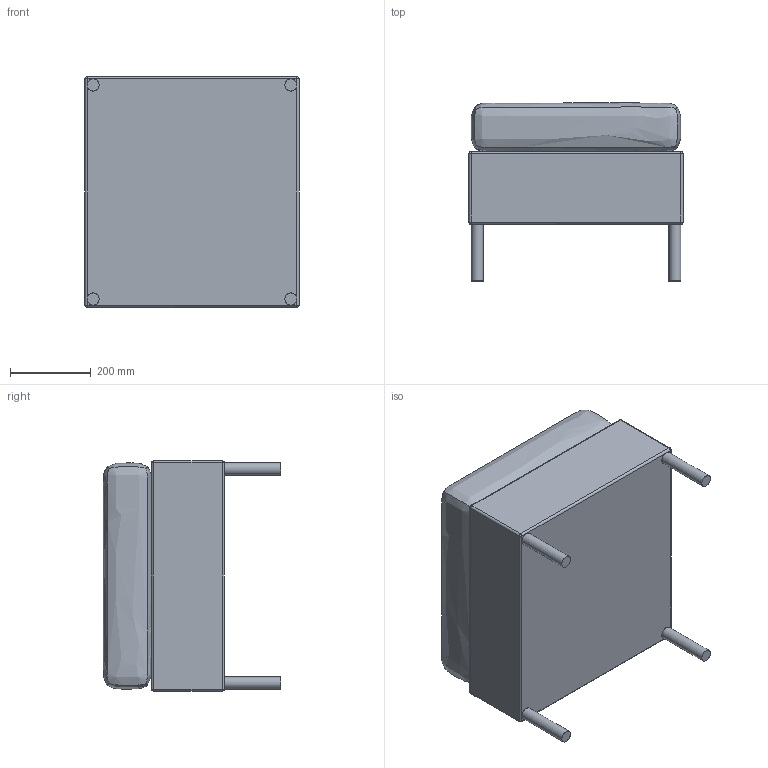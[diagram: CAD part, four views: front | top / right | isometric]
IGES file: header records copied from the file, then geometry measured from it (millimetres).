
Global section: file name: VincentSheppard_DovileFootrest; native system: unknown; preprocessor: unknown; author: ict@vincentsheppard.com; organization: unknown; date: 20180515.114959; units: millimetre
Bounding box: 530 x 440 x 570 mm (x, y, z)
Volume: 88462472.9 mm3; surface area: 1816804.3 mm2
Topology: 6 solids, 6 shells, 44 faces, 72 edges, 40 vertices
Faces by surface type: bspline 44
